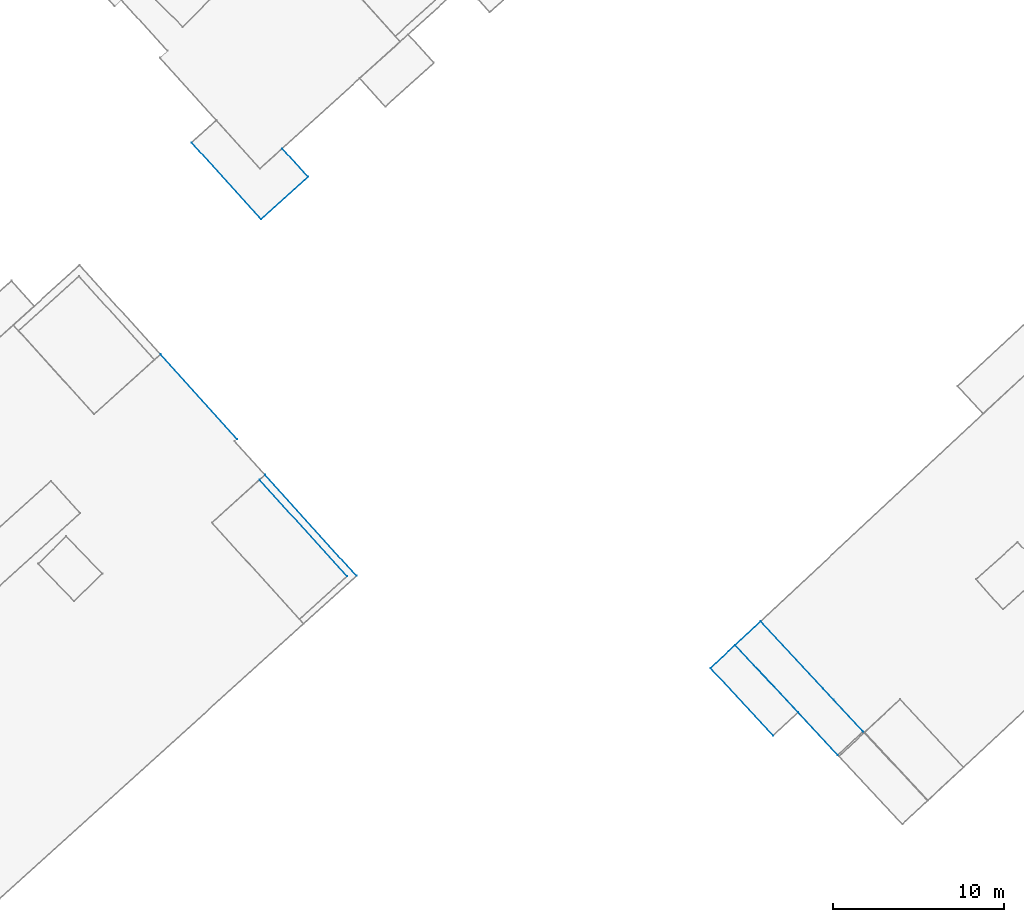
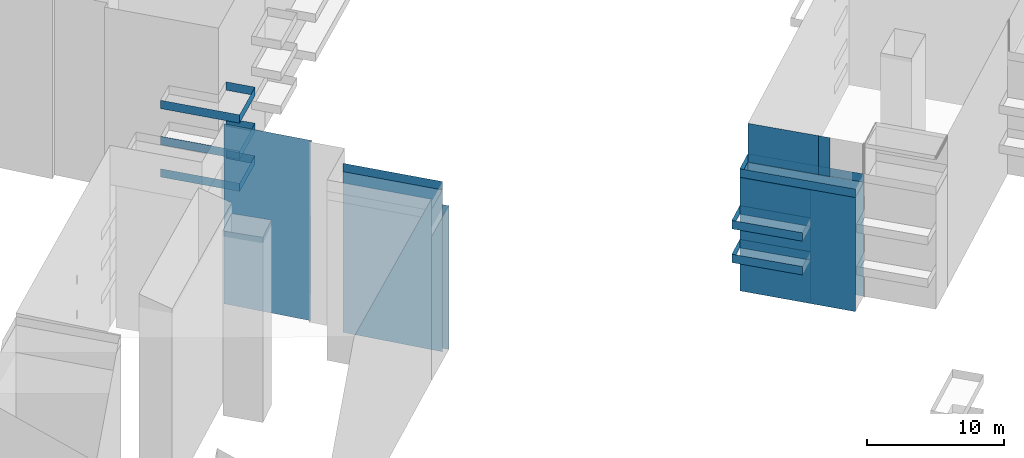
# Not in any storey, part 24 of 136: 47 walls.
"""IFC4 building model written with IfcOpenShell, lengths in metres."""

from ifc_helpers import new_model, entity, si_unit, converted_unit, frame, origin, place, context, subcontext, project, spatial, face_set, surface_model, element, save


model = new_model("IFC4")

# Units and contexts
model_context = context("Model", 3, precision=1e-05, world=origin())
body_context = subcontext(model_context, "Body", "Model", "MODEL_VIEW")
ifc_project = project(units=[converted_unit("PLANEANGLEUNIT", "DEGREE", entity("IfcRatioMeasure", 0.0174532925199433), si_unit("PLANEANGLEUNIT", "RADIAN"), dimensions=[0, 0, 0, 0, 0, 0, 0]), si_unit("AREAUNIT", "SQUARE_METRE"), si_unit("LENGTHUNIT", "METRE")], contexts=[model_context])

# Site, building
site_placement = place(None, origin())
site = spatial("IfcSite", under=ifc_project, at=site_placement, Name="_site")
building_1_placement = place(site_placement, origin())
building_1 = spatial("IfcBuilding", under=site, at=building_1_placement, Name="_building")

# Walls
wall_1_placement = place(building_1_placement, origin())
element("IfcWall", 1, at=wall_1_placement, inside=building_1, Name="Wall", PredefinedType="NOTDEFINED", context=body_context, shape_type="SurfaceModel", body=[
    surface_model("IfcFaceBasedSurfaceModel", [(107.05, -8.89, 45.01), (103.37, -4.939, 45.01), (103.37, -4.939, 45.76), (107.05, -8.89, 45.76)], [face_set([[[0, 1, 2, 3]]])]),
])
wall_2_placement = place(building_1_placement, origin())
element("IfcWall", 2, at=wall_2_placement, inside=building_1, Name="Wall", PredefinedType="NOTDEFINED", context=body_context, shape_type="SurfaceModel", body=[
    surface_model("IfcFaceBasedSurfaceModel", [(103.37, -4.939, 45.01), (104.82, -3.59, 45.01), (104.82, -3.59, 45.76), (103.37, -4.939, 45.76)], [face_set([[[0, 1, 2, 3]]])]),
])
wall_3_placement = place(building_1_placement, origin())
element("IfcWall", 3, at=wall_3_placement, inside=building_1, Name="Wall", PredefinedType="NOTDEFINED", context=body_context, shape_type="SurfaceModel", body=[
    surface_model("IfcFaceBasedSurfaceModel", [(107.05, -8.89, 45.01), (103.37, -4.939, 45.01), (103.37, -4.939, 45.76), (107.05, -8.89, 45.76)], [face_set([[[0, 1, 2, 3]]])]),
])
wall_4_placement = place(building_1_placement, origin())
element("IfcWall", 4, at=wall_4_placement, inside=building_1, Name="Wall", PredefinedType="NOTDEFINED", context=body_context, shape_type="SurfaceModel", body=[
    surface_model("IfcFaceBasedSurfaceModel", [(104.82, -3.59, 45.01), (108.5, -7.54, 45.01), (108.5, -7.54, 45.76), (104.82, -3.59, 45.76)], [face_set([[[0, 1, 2, 3]]])]),
])
wall_5_placement = place(building_1_placement, origin())
element("IfcWall", 5, at=wall_5_placement, inside=building_1, Name="Wall", PredefinedType="NOTDEFINED", context=body_context, shape_type="SurfaceModel", body=[
    surface_model("IfcFaceBasedSurfaceModel", [(103.37, -4.939, 42.0), (104.82, -3.59, 42.0), (104.82, -3.59, 42.75), (103.37, -4.939, 42.75)], [face_set([[[0, 1, 2, 3]]])]),
])
wall_6_placement = place(building_1_placement, origin())
element("IfcWall", 6, at=wall_6_placement, inside=building_1, Name="Wall", PredefinedType="NOTDEFINED", context=body_context, shape_type="SurfaceModel", body=[
    surface_model("IfcFaceBasedSurfaceModel", [(107.05, -8.89, 42.0), (103.37, -4.939, 42.0), (103.37, -4.939, 42.75), (107.05, -8.89, 42.75)], [face_set([[[0, 1, 2, 3]]])]),
])
wall_7_placement = place(building_1_placement, origin())
element("IfcWall", 7, at=wall_7_placement, inside=building_1, Name="Wall", PredefinedType="NOTDEFINED", context=body_context, shape_type="SurfaceModel", body=[
    surface_model("IfcFaceBasedSurfaceModel", [(103.37, -4.939, 42.0), (104.82, -3.59, 42.0), (104.82, -3.59, 42.75), (103.37, -4.939, 42.75)], [face_set([[[0, 1, 2, 3]]])]),
])
wall_8_placement = place(building_1_placement, origin())
element("IfcWall", 8, at=wall_8_placement, inside=building_1, Name="Wall", PredefinedType="NOTDEFINED", context=body_context, shape_type="SurfaceModel", body=[
    surface_model("IfcFaceBasedSurfaceModel", [(107.05, -8.89, 42.0), (103.37, -4.939, 42.0), (103.37, -4.939, 42.75), (107.05, -8.89, 42.75)], [face_set([[[0, 1, 2, 3]]])]),
])
wall_9_placement = place(building_1_placement, origin())
element("IfcWall", 9, at=wall_9_placement, inside=building_1, Name="Wall", PredefinedType="NOTDEFINED", context=body_context, shape_type="SurfaceModel", body=[
    surface_model("IfcFaceBasedSurfaceModel", [(104.82, -3.59, 42.0), (108.5, -7.54, 42.0), (108.5, -7.54, 42.75), (104.82, -3.59, 42.75)], [face_set([[[0, 1, 2, 3]]])]),
])
wall_10_placement = place(building_1_placement, origin())
element("IfcWall", 10, at=wall_10_placement, inside=building_1, Name="Wall", PredefinedType="NOTDEFINED", context=body_context, shape_type="SurfaceModel", body=[
    surface_model("IfcFaceBasedSurfaceModel", [(104.82, -3.59, 48.29), (106.3, -2.21, 48.29), (106.3, -2.21, 38.16), (104.82, -3.59, 38.157)], [face_set([[[0, 1, 2, 3]]])]),
])
wall_11_placement = place(building_1_placement, origin())
element("IfcWall", 11, at=wall_11_placement, inside=building_1, Name="Wall", PredefinedType="NOTDEFINED", context=body_context, shape_type="SurfaceModel", body=[
    surface_model("IfcFaceBasedSurfaceModel", [(110.83, -10.05, 48.29), (104.82, -3.59, 48.29), (104.82, -3.59, 38.157), (110.83, -10.05, 38.115)], [face_set([[[0, 1, 2, 3]]])]),
])
wall_12_placement = place(building_1_placement, origin())
element("IfcWall", 12, at=wall_12_placement, inside=building_1, Name="Wall", PredefinedType="NOTDEFINED", context=body_context, shape_type="SurfaceModel", body=[
    surface_model("IfcFaceBasedSurfaceModel", [(104.82, -3.59, 48.25), (106.3, -2.21, 48.25), (106.3, -2.21, 38.16), (104.82, -3.59, 38.157)], [face_set([[[0, 1, 2, 3]]])]),
])
wall_13_placement = place(building_1_placement, origin())
element("IfcWall", 13, at=wall_13_placement, inside=building_1, Name="Wall", PredefinedType="NOTDEFINED", context=body_context, shape_type="SurfaceModel", body=[
    surface_model("IfcFaceBasedSurfaceModel", [(108.5, -7.54, 48.25), (104.82, -3.59, 48.25), (104.82, -3.59, 38.157), (108.5, -7.54, 38.131)], [face_set([[[0, 1, 2, 3]]])]),
])
wall_14_placement = place(building_1_placement, origin())
element("IfcWall", 14, at=wall_14_placement, inside=building_1, Name="Wall", PredefinedType="NOTDEFINED", context=body_context, shape_type="SurfaceModel", body=[
    surface_model("IfcFaceBasedSurfaceModel", [(104.82, -3.59, 48.29), (106.3, -2.21, 48.29), (106.3, -2.21, 49.04), (104.82, -3.59, 49.04)], [face_set([[[0, 1, 2, 3]]])]),
])
wall_15_placement = place(building_1_placement, origin())
element("IfcWall", 15, at=wall_15_placement, inside=building_1, Name="Wall", PredefinedType="NOTDEFINED", context=body_context, shape_type="SurfaceModel", body=[
    surface_model("IfcFaceBasedSurfaceModel", [(110.83, -10.05, 48.29), (104.82, -3.59, 48.29), (104.82, -3.59, 49.04), (110.83, -10.05, 49.04)], [face_set([[[0, 1, 2, 3]]])]),
])
wall_16_placement = place(building_1_placement, origin())
element("IfcWall", 16, at=wall_16_placement, inside=building_1, Name="Wall", PredefinedType="NOTDEFINED", context=body_context, shape_type="SurfaceModel", body=[
    surface_model("IfcFaceBasedSurfaceModel", [(104.82, -3.59, 48.29), (106.3, -2.21, 48.29), (106.3, -2.21, 49.04), (104.82, -3.59, 49.04)], [face_set([[[0, 1, 2, 3]]])]),
])
wall_17_placement = place(building_1_placement, origin())
element("IfcWall", 17, at=wall_17_placement, inside=building_1, Name="Wall", PredefinedType="NOTDEFINED", context=body_context, shape_type="SurfaceModel", body=[
    surface_model("IfcFaceBasedSurfaceModel", [(110.83, -10.05, 48.29), (104.82, -3.59, 48.29), (104.82, -3.59, 49.04), (110.83, -10.05, 49.04)], [face_set([[[0, 1, 2, 3]]])]),
])
wall_18_placement = place(building_1_placement, origin())
element("IfcWall", 18, at=wall_18_placement, inside=building_1, Name="Wall", PredefinedType="NOTDEFINED", context=body_context, shape_type="SurfaceModel", body=[
    surface_model("IfcFaceBasedSurfaceModel", [(103.37, -4.939, 45.01), (104.82, -3.59, 45.01), (104.82, -3.59, 45.76), (103.37, -4.939, 45.76)], [face_set([[[0, 1, 2, 3]]])]),
])

# Building
building_2_placement = place(site_placement, origin())
building_2 = spatial("IfcBuilding", under=site, at=building_2_placement, Name="_building")

# Walls
wall_19_placement = place(building_2_placement, origin())
element("IfcWall", 19, at=wall_19_placement, inside=building_2, Name="Wall", PredefinedType="NOTDEFINED", context=body_context, shape_type="SurfaceModel", body=[
    surface_model("IfcFaceBasedSurfaceModel", [(104.82, -3.59, 42.0), (108.5, -7.54, 42.0), (108.5, -7.54, 42.75), (104.82, -3.59, 42.75)], [face_set([[[0, 1, 2, 3]]])]),
])
wall_20_placement = place(building_2_placement, origin())
element("IfcWall", 20, at=wall_20_placement, inside=building_2, Name="Wall", PredefinedType="NOTDEFINED", context=body_context, shape_type="SurfaceModel", body=[
    surface_model("IfcFaceBasedSurfaceModel", [(109.98, -6.16, 51.74), (106.3, -2.21, 51.74), (106.3, -2.21, 48.25), (109.98, -6.16, 48.25)], [face_set([[[0, 1, 2, 3]]])]),
])
wall_21_placement = place(building_2_placement, origin())
element("IfcWall", 21, at=wall_21_placement, inside=building_2, Name="Wall", PredefinedType="NOTDEFINED", context=body_context, shape_type="SurfaceModel", body=[
    surface_model("IfcFaceBasedSurfaceModel", [(110.57, -6.79, 51.74), (109.98, -6.16, 51.74), (109.98, -6.16, 48.25), (110.57, -6.79, 48.25)], [face_set([[[0, 1, 2, 3]]])]),
])
for number, where, name in (
    (22, (0.0, 0.0, 0.0), "Wall"),
    (23, (0.0, 0.0, 0.0), "Wall"),
):
    element("IfcWall", number, at=place(building_2_placement, frame(where)), inside=building_2, Name=name, PredefinedType="NOTDEFINED", context=body_context, shape_type="SurfaceModel", body=[
        surface_model("IfcFaceBasedSurfaceModel", [(106.3, -2.21, 48.29), (112.32, -8.66, 48.29), (112.32, -8.66, 49.04), (106.3, -2.21, 49.04)], [face_set([[[0, 1, 2, 3]]])]),
    ])
wall_22_placement = place(building_2_placement, origin())
element("IfcWall", 24, at=wall_22_placement, inside=building_2, Name="Wall", PredefinedType="NOTDEFINED", context=body_context, shape_type="SurfaceModel", body=[
    surface_model("IfcFaceBasedSurfaceModel", [(106.3, -2.21, 48.29), (112.32, -8.66, 48.29), (112.32, -8.66, 38.121), (106.3, -2.21, 38.16)], [face_set([[[0, 1, 2, 3]]])]),
])

# Building
building_3_placement = place(site_placement, origin())
building_3 = spatial("IfcBuilding", under=site, at=building_3_placement, Name="_building")

# Walls
wall_23_placement = place(building_3_placement, origin())
element("IfcWall", 25, at=wall_23_placement, inside=building_3, Name="Wall", PredefinedType="NOTDEFINED", context=body_context, shape_type="SurfaceModel", body=[
    surface_model("IfcFaceBasedSurfaceModel", [(77.04, 21.36, 44.48), (72.97, 25.851, 44.48), (72.97, 25.851, 45.23), (77.04, 21.36, 45.23)], [face_set([[[0, 1, 2, 3]]])]),
])
wall_24_placement = place(building_3_placement, origin())
element("IfcWall", 26, at=wall_24_placement, inside=building_3, Name="Wall", PredefinedType="NOTDEFINED", context=body_context, shape_type="SurfaceModel", body=[
    surface_model("IfcFaceBasedSurfaceModel", [(79.78, 23.84, 44.48), (77.04, 21.36, 44.48), (77.04, 21.36, 45.23), (79.78, 23.84, 45.23)], [face_set([[[0, 1, 2, 3]]])]),
])
wall_25_placement = place(building_3_placement, origin())
element("IfcWall", 27, at=wall_25_placement, inside=building_3, Name="Wall", PredefinedType="NOTDEFINED", context=body_context, shape_type="SurfaceModel", body=[
    surface_model("IfcFaceBasedSurfaceModel", [(78.28, 25.5, 44.48), (79.78, 23.84, 44.48), (79.78, 23.84, 45.23), (78.28, 25.5, 45.23)], [face_set([[[0, 1, 2, 3]]])]),
])
wall_26_placement = place(building_3_placement, origin())
element("IfcWall", 28, at=wall_26_placement, inside=building_3, Name="Wall", PredefinedType="NOTDEFINED", context=body_context, shape_type="SurfaceModel", body=[
    surface_model("IfcFaceBasedSurfaceModel", [(77.04, 21.36, 44.48), (72.97, 25.851, 44.48), (72.97, 25.851, 45.23), (77.04, 21.36, 45.23)], [face_set([[[0, 1, 2, 3]]])]),
])
wall_27_placement = place(building_3_placement, origin())
element("IfcWall", 29, at=wall_27_placement, inside=building_3, Name="Wall", PredefinedType="NOTDEFINED", context=body_context, shape_type="SurfaceModel", body=[
    surface_model("IfcFaceBasedSurfaceModel", [(79.78, 23.84, 44.48), (77.04, 21.36, 44.48), (77.04, 21.36, 45.23), (79.78, 23.84, 45.23)], [face_set([[[0, 1, 2, 3]]])]),
])
wall_28_placement = place(building_3_placement, origin())
element("IfcWall", 30, at=wall_28_placement, inside=building_3, Name="Wall", PredefinedType="NOTDEFINED", context=body_context, shape_type="SurfaceModel", body=[
    surface_model("IfcFaceBasedSurfaceModel", [(78.28, 25.5, 44.48), (79.78, 23.84, 44.48), (79.78, 23.84, 45.23), (78.28, 25.5, 45.23)], [face_set([[[0, 1, 2, 3]]])]),
])
wall_29_placement = place(building_3_placement, origin())
element("IfcWall", 31, at=wall_29_placement, inside=building_3, Name="Wall", PredefinedType="NOTDEFINED", context=body_context, shape_type="SurfaceModel", body=[
    surface_model("IfcFaceBasedSurfaceModel", [(77.04, 21.36, 47.7), (72.97, 25.851, 47.7), (72.97, 25.851, 48.45), (77.04, 21.36, 48.45)], [face_set([[[0, 1, 2, 3]]])]),
])
wall_30_placement = place(building_3_placement, origin())
element("IfcWall", 32, at=wall_30_placement, inside=building_3, Name="Wall", PredefinedType="NOTDEFINED", context=body_context, shape_type="SurfaceModel", body=[
    surface_model("IfcFaceBasedSurfaceModel", [(79.78, 23.84, 47.7), (77.04, 21.36, 47.7), (77.04, 21.36, 48.45), (79.78, 23.84, 48.45)], [face_set([[[0, 1, 2, 3]]])]),
])
wall_31_placement = place(building_3_placement, origin())
element("IfcWall", 33, at=wall_31_placement, inside=building_3, Name="Wall", PredefinedType="NOTDEFINED", context=body_context, shape_type="SurfaceModel", body=[
    surface_model("IfcFaceBasedSurfaceModel", [(78.28, 25.5, 47.7), (79.78, 23.84, 47.7), (79.78, 23.84, 48.45), (78.28, 25.5, 48.45)], [face_set([[[0, 1, 2, 3]]])]),
])
wall_32_placement = place(building_3_placement, origin())
element("IfcWall", 34, at=wall_32_placement, inside=building_3, Name="Wall", PredefinedType="NOTDEFINED", context=body_context, shape_type="SurfaceModel", body=[
    surface_model("IfcFaceBasedSurfaceModel", [(77.04, 21.36, 47.7), (72.97, 25.851, 47.7), (72.97, 25.851, 48.45), (77.04, 21.36, 48.45)], [face_set([[[0, 1, 2, 3]]])]),
])
wall_33_placement = place(building_3_placement, origin())
element("IfcWall", 35, at=wall_33_placement, inside=building_3, Name="Wall", PredefinedType="NOTDEFINED", context=body_context, shape_type="SurfaceModel", body=[
    surface_model("IfcFaceBasedSurfaceModel", [(79.78, 23.84, 47.7), (77.04, 21.36, 47.7), (77.04, 21.36, 48.45), (79.78, 23.84, 48.45)], [face_set([[[0, 1, 2, 3]]])]),
])
wall_34_placement = place(building_3_placement, origin())
element("IfcWall", 36, at=wall_34_placement, inside=building_3, Name="Wall", PredefinedType="NOTDEFINED", context=body_context, shape_type="SurfaceModel", body=[
    surface_model("IfcFaceBasedSurfaceModel", [(78.28, 25.5, 47.7), (79.78, 23.84, 47.7), (79.78, 23.84, 48.45), (78.28, 25.5, 48.45)], [face_set([[[0, 1, 2, 3]]])]),
])
wall_35_placement = place(building_3_placement, origin())
element("IfcWall", 37, at=wall_35_placement, inside=building_3, Name="Wall", PredefinedType="NOTDEFINED", context=body_context, shape_type="SurfaceModel", body=[
    surface_model("IfcFaceBasedSurfaceModel", [(77.04, 21.36, 41.6), (72.97, 25.851, 41.6), (72.97, 25.851, 42.35), (77.04, 21.36, 42.35)], [face_set([[[0, 1, 2, 3]]])]),
])
wall_36_placement = place(building_3_placement, origin())
element("IfcWall", 38, at=wall_36_placement, inside=building_3, Name="Wall", PredefinedType="NOTDEFINED", context=body_context, shape_type="SurfaceModel", body=[
    surface_model("IfcFaceBasedSurfaceModel", [(79.78, 23.84, 41.6), (77.04, 21.36, 41.6), (77.04, 21.36, 42.35), (79.78, 23.84, 42.35)], [face_set([[[0, 1, 2, 3]]])]),
])
wall_37_placement = place(building_3_placement, origin())
element("IfcWall", 39, at=wall_37_placement, inside=building_3, Name="Wall", PredefinedType="NOTDEFINED", context=body_context, shape_type="SurfaceModel", body=[
    surface_model("IfcFaceBasedSurfaceModel", [(78.28, 25.5, 41.6), (79.78, 23.84, 41.6), (79.78, 23.84, 42.35), (78.28, 25.5, 42.35)], [face_set([[[0, 1, 2, 3]]])]),
])
wall_38_placement = place(building_3_placement, origin())
element("IfcWall", 40, at=wall_38_placement, inside=building_3, Name="Wall", PredefinedType="NOTDEFINED", context=body_context, shape_type="SurfaceModel", body=[
    surface_model("IfcFaceBasedSurfaceModel", [(77.04, 21.36, 41.6), (72.97, 25.851, 41.6), (72.97, 25.851, 42.35), (77.04, 21.36, 42.35)], [face_set([[[0, 1, 2, 3]]])]),
])
wall_39_placement = place(building_3_placement, origin())
element("IfcWall", 41, at=wall_39_placement, inside=building_3, Name="Wall", PredefinedType="NOTDEFINED", context=body_context, shape_type="SurfaceModel", body=[
    surface_model("IfcFaceBasedSurfaceModel", [(79.78, 23.84, 41.6), (77.04, 21.36, 41.6), (77.04, 21.36, 42.35), (79.78, 23.84, 42.35)], [face_set([[[0, 1, 2, 3]]])]),
])
wall_40_placement = place(building_3_placement, origin())
element("IfcWall", 42, at=wall_40_placement, inside=building_3, Name="Wall", PredefinedType="NOTDEFINED", context=body_context, shape_type="SurfaceModel", body=[
    surface_model("IfcFaceBasedSurfaceModel", [(78.28, 25.5, 41.6), (79.78, 23.84, 41.6), (79.78, 23.84, 42.35), (78.28, 25.5, 42.35)], [face_set([[[0, 1, 2, 3]]])]),
])

# Building
building_4_placement = place(site_placement, origin())
building_4 = spatial("IfcBuilding", under=site, at=building_4_placement, Name="_building")

# Walls
for number, where, name in (
    (43, (0.0, 0.0, 0.0), "Wall"),
    (44, (0.0, 0.0, 0.0), "Wall"),
):
    element("IfcWall", number, at=place(building_4_placement, frame(where)), inside=building_4, Name=name, PredefinedType="NOTDEFINED", context=body_context, shape_type="SurfaceModel", body=[
        surface_model("IfcFaceBasedSurfaceModel", [(76.94, 6.101, 52.67), (82.07, 0.44, 52.67), (82.07, 0.44, 53.42), (76.94, 6.101, 53.42)], [face_set([[[0, 1, 2, 3]]])]),
    ])
wall_41_placement = place(building_4_placement, origin())
element("IfcWall", 45, at=wall_41_placement, inside=building_4, Name="Wall", PredefinedType="NOTDEFINED", context=body_context, shape_type="SurfaceModel", body=[
    surface_model("IfcFaceBasedSurfaceModel", [(76.94, 6.101, 52.67), (82.07, 0.44, 52.67), (82.07, 0.44, 38.239), (76.94, 6.101, 38.339)], [face_set([[[0, 1, 2, 3]]])]),
])
wall_42_placement = place(building_4_placement, origin())
element("IfcWall", 46, at=wall_42_placement, inside=building_4, Name="Wall", PredefinedType="NOTDEFINED", context=body_context, shape_type="SurfaceModel", body=[
    surface_model("IfcFaceBasedSurfaceModel", [(77.26, 6.38, 51.06), (82.62, 0.46, 51.06), (82.62, 0.46, 38.239), (77.26, 6.38, 38.339)], [face_set([[[0, 1, 2, 3]]])]),
])
wall_43_placement = place(building_4_placement, origin())
element("IfcWall", 47, at=wall_43_placement, inside=building_4, Name="Wall", PredefinedType="NOTDEFINED", context=body_context, shape_type="SurfaceModel", body=[
    surface_model("IfcFaceBasedSurfaceModel", [(71.14, 13.44, 54.52), (75.63, 8.48, 54.47), (75.63, 8.48, 38.379), (71.14, 13.44, 38.472)], [face_set([[[0, 1, 2, 3]]])]),
])

save(model, "model.ifc")
